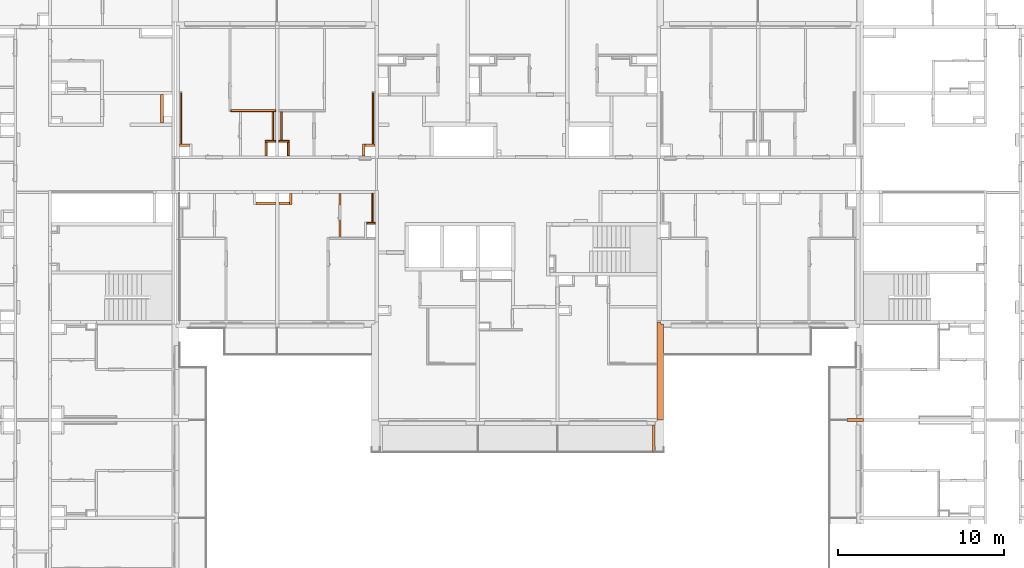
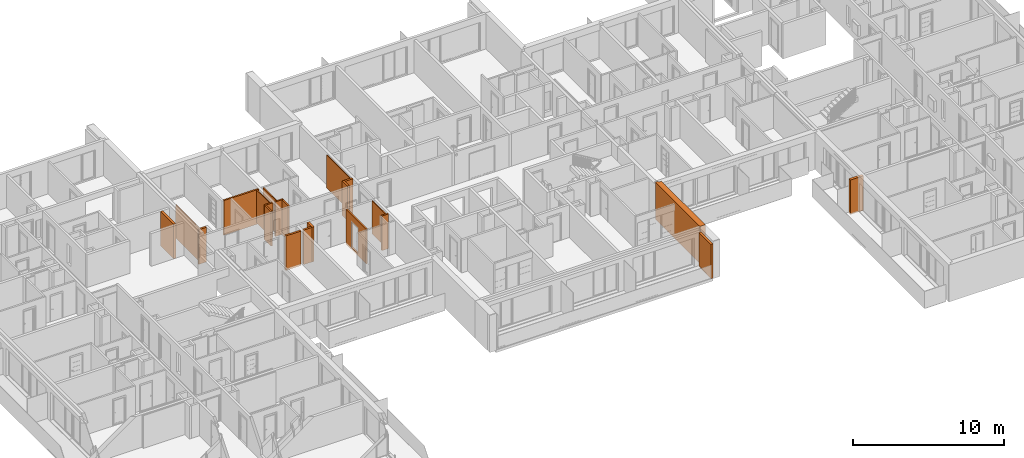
# One storey, part 57 of 66: 22 proxies, 1 opening.
"""IFC2X3 building model written with IfcOpenShell, lengths in millimetres."""

from ifc_helpers import new_model, entity, si_unit, converted_unit, derived_unit, money_unit, direction, frame, origin_with_axes, origin_2d_with_axis, place, context, subcontext, project, spatial, rectangle, extrude, faceted_brep, material, material_list, type_object, element, save


model = new_model("IFC2X3")

# Units and contexts
model_context = context("Model", 3, precision=0.01, world=origin_with_axes(), true_north=direction((0.34421633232, 0.938890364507)))
body_context = subcontext(model_context, "Body", "Model", "MODEL_VIEW")
ifc_project = project(units=[si_unit("LENGTHUNIT", "METRE", prefix="MILLI"), si_unit("AREAUNIT", "SQUARE_METRE"), si_unit("VOLUMEUNIT", "CUBIC_METRE"), converted_unit("PLANEANGLEUNIT", "DEGREE", entity("IfcPlaneAngleMeasure", 0.0174532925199), si_unit("PLANEANGLEUNIT", "RADIAN"), dimensions=[0, 0, 0, 0, 0, 0, 0]), si_unit("SOLIDANGLEUNIT", "STERADIAN"), money_unit("USD"), converted_unit("TIMEUNIT", "Year", entity("IfcTimeMeasure", 31556926.0), si_unit("TIMEUNIT", "SECOND"), dimensions=[0, 0, 1, 0, 0, 0, 0]), si_unit("MASSUNIT", "GRAM", prefix="KILO"), si_unit("THERMODYNAMICTEMPERATUREUNIT", "DEGREE_CELSIUS"), si_unit("LUMINOUSINTENSITYUNIT", "LUMEN"), si_unit("ENERGYUNIT", "JOULE", prefix="MEGA"), derived_unit("THERMALCONDUCTANCEUNIT", [(si_unit("POWERUNIT", "WATT"), 1), (si_unit("LENGTHUNIT", "METRE"), -1), (si_unit("THERMODYNAMICTEMPERATUREUNIT", "KELVIN"), -1)]), derived_unit("SPECIFICHEATCAPACITYUNIT", [(si_unit("ENERGYUNIT", "JOULE"), 1), (si_unit("MASSUNIT", "GRAM", prefix="KILO"), -1), (si_unit("THERMODYNAMICTEMPERATUREUNIT", "KELVIN"), -1)]), derived_unit("MASSDENSITYUNIT", [(si_unit("MASSUNIT", "GRAM", prefix="KILO"), 1), (si_unit("VOLUMEUNIT", "CUBIC_METRE"), -1)])], contexts=[model_context])

# Site, building, storey
site_placement = place(None, origin_with_axes())
site = spatial("IfcSite", under=ifc_project, at=site_placement, Name="USTRONIE MORSKIE", CompositionType="ELEMENT")
building_placement = place(site_placement, origin_with_axes())
building = spatial("IfcBuilding", under=site, at=building_placement, Name="Budynek", CompositionType="ELEMENT")
storey_placement = place(building_placement, frame((0.0, 0.0, 10000.0), z_axis=(0.0, 0.0, 1.0), x_axis=(1.0, 0.0, 0.0)))
storey = spatial("IfcBuildingStorey", under=building, at=storey_placement, Name="PIĘTRO 3", CompositionType="ELEMENT", Elevation=10000.0)

# Proxies
ifc_material_1 = material(Name="Bloczki silikatowe")
building_element_proxy_type_1 = type_object("IfcBuildingElementProxyType", Name="Bloczki silikatowe 120", PredefinedType="NOTDEFINED")
proxy_1_placement = place(storey_placement, frame((373917.920919, 737751.199937, -160.0), z_axis=(0.0, 0.0, 1.0), x_axis=(0.0, -1.0, 0.0)))
element("IfcBuildingElementProxy", 1, at=proxy_1_placement, inside=storey, type_object=building_element_proxy_type_1, material=ifc_material_1, Name="SW-04", context=body_context, shape_type="Brep", body=[
    faceted_brep([(820.00090117, 120.0, 0.0), (820.00090117, 0.0, 0.0), (0.0, 0.0, 0.0), (0.0, 120.0, 0.0), (820.00090117, 120.0, 2800.0), (820.00090117, 0.0, 2800.0), (0.0, 0.0, 2800.0), (0.0, 120.0, 2800.0)], [[[0, 1, 2, 3]], [[1, 0, 4, 5]], [[1, 5, 6, 2]], [[7, 3, 2, 6]], [[4, 0, 3, 7]], [[5, 4, 7, 6]]]),
])
proxy_2_placement = place(storey_placement, frame((373317.920919, 737751.199937, -160.0), z_axis=(0.0, 0.0, 1.0), x_axis=(-1.0, 0.0, 0.0)))
element("IfcBuildingElementProxy", 2, at=proxy_2_placement, inside=storey, type_object=building_element_proxy_type_1, material=ifc_material_1, Name="SW-04", context=body_context, shape_type="Brep", body=[
    faceted_brep([(720.0, 0.0, 2800.0), (100.0, 0.0, 2800.0), (100.0, -120.0, 2800.0), (720.0, -120.0, 2800.0), (720.0, 0.0, 0.0), (100.0, 0.0, 0.0), (100.0, -120.0, 0.0), (720.0, -120.0, 0.0)], [[[0, 1, 2, 3]], [[4, 5, 1, 0]], [[5, 6, 2, 1]], [[3, 2, 6, 7]], [[7, 4, 0, 3]], [[7, 6, 5, 4]]]),
])
proxy_3_placement = place(storey_placement, frame((373317.920919, 737751.199937, -160.0), z_axis=(0.0, 0.0, 1.0), x_axis=(1.0, 0.0, 0.0)))
element("IfcBuildingElementProxy", 3, at=proxy_3_placement, inside=storey, type_object=building_element_proxy_type_1, material=ifc_material_1, Name="SW-04", context=body_context, shape_type="Brep", body=[
    faceted_brep([(720.0, 120.0, 0.0), (720.0, 0.0, 0.0), (100.0, 0.0, 0.0), (100.0, 120.0, 0.0), (720.0, 120.0, 2800.0), (720.0, 0.0, 2800.0), (100.0, 0.0, 2800.0), (100.0, 120.0, 2800.0)], [[[0, 1, 2, 3]], [[1, 0, 4, 5]], [[1, 5, 6, 2]], [[7, 3, 2, 6]], [[4, 0, 3, 7]], [[5, 4, 7, 6]]]),
])
proxy_4_placement = place(storey_placement, frame((373317.920919, 739651.199937, -160.0), z_axis=(0.0, 0.0, 1.0), x_axis=(-1.0, 0.0, 0.0)))
element("IfcBuildingElementProxy", 4, at=proxy_4_placement, inside=storey, type_object=building_element_proxy_type_1, material=ifc_material_1, Name="SW-04", context=body_context, shape_type="Brep", body=[
    faceted_brep([(2790.00713284, -59.9999999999, 2800.0), (2790.00713284, 59.9999999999, 2800.0), (100.0, 59.9999999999, 2800.0), (100.0, -59.9999999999, 2800.0), (2790.00713284, -59.9999999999, 0.0), (2790.00713284, 59.9999999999, 0.0), (100.0, 59.9999999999, 0.0), (100.0, -59.9999999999, 0.0)], [[[0, 1, 2, 3]], [[1, 0, 4, 5]], [[1, 5, 6, 2]], [[7, 3, 2, 6]], [[4, 0, 3, 7]], [[5, 4, 7, 6]]]),
])
proxy_5_placement = place(storey_placement, frame((372717.920919, 737751.199937, -160.0), z_axis=(0.0, 0.0, 1.0), x_axis=(0.0, -1.0, 0.0)))
element("IfcBuildingElementProxy", 5, at=proxy_5_placement, inside=storey, type_object=building_element_proxy_type_1, material=ifc_material_1, Name="SW-04", context=body_context, shape_type="Brep", body=[
    faceted_brep([(820.00090117, -120.0, 2800.0), (820.00090117, 0.0, 2800.0), (0.0, 0.0, 2800.0), (0.0, -120.0, 2800.0), (820.00090117, -120.0, 0.0), (820.00090117, 0.0, 0.0), (0.0, 0.0, 0.0), (0.0, -120.0, 0.0)], [[[0, 1, 2, 3]], [[1, 0, 4, 5]], [[1, 5, 6, 2]], [[7, 3, 2, 6]], [[4, 0, 3, 7]], [[5, 4, 7, 6]]]),
])

# Proxy, opening
proxy_6_placement = place(storey_placement, frame((377097.901749, 731951.199132, -160.0), z_axis=(0.0, 0.0, 1.0), x_axis=(0.0, 1.0, 0.0)))
proxy_6 = element("IfcBuildingElementProxy", 6, at=proxy_6_placement, inside=storey, type_object=building_element_proxy_type_1, material=ifc_material_1, Name="SW-04", context=body_context, shape_type="Brep", body=[
    faceted_brep([(2720.00298174, 60.0, 0.0), (2720.00301893, -60.0, 0.0), (59.9999999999, -60.0, 0.0), (59.9999999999, 60.0, 0.0), (2720.00298174, 60.0, 2800.0), (2720.00301893, -60.0, 2800.0), (59.9999999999, -60.0, 2800.0), (59.9999999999, 60.0, 2800.0)], [[[0, 1, 2, 3]], [[1, 0, 4, 5]], [[1, 5, 6, 2]], [[7, 3, 2, 6]], [[4, 0, 3, 7]], [[5, 4, 7, 6]]]),
])
opening_placement = place(proxy_6_placement, frame((1559.96669926, 0.0, 160.0), z_axis=(0.0, 0.0, 1.0), x_axis=(1.0, 0.0, 0.0)))
element("IfcOpeningElement", 7, at=opening_placement, cuts=proxy_6, Name="Dw.4", context=body_context, shape_type="SweptSolid", body=[
    extrude(rectangle(XDim=920.0, YDim=2070.0, at=origin_2d_with_axis()), frame((0.0, -120.0, 1035.0), z_axis=(0.0, 1.0, 0.0), x_axis=(1.0, 0.0, 0.0)), (0.0, 0.0, 1.0), 360.0),
    extrude(rectangle(XDim=994.0, YDim=2177.0, at=origin_2d_with_axis()), frame((0.0, -60.0, 1088.5), z_axis=(0.0, 1.0, 0.0), x_axis=(1.0, 0.0, 0.0)), (0.0, 0.0, -1.0), 120.0),
    extrude(rectangle(XDim=994.0, YDim=2177.0, at=origin_2d_with_axis()), frame((0.0, 60.0, 1088.5), z_axis=(0.0, -1.0, 0.0), x_axis=(1.0, 0.0, 0.0)), (0.0, 0.0, -1.0), 120.0),
])

# Proxies
proxy_7_placement = place(storey_placement, frame((379317.920919, 732811.215201, -160.0), z_axis=(0.0, 0.0, 1.0), x_axis=(-0.999999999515, -3.11484020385e-05, 0.0)))
element("IfcBuildingElementProxy", 8, at=proxy_7_placement, inside=storey, type_object=building_element_proxy_type_1, material=ifc_material_1, Name="SW-04", context=body_context, shape_type="Brep", body=[
    faceted_brep([(599.979556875, 1.13686837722e-10, 0.0), (599.972081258, -120.0, 0.0), (99.9962622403, -120.0, 0.0), (100.000000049, 1.13686837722e-10, 0.0), (599.979556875, 1.13686837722e-10, 2800.0), (599.972081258, -120.0, 2800.0), (99.9962622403, -120.0, 2800.0), (100.000000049, 1.13686837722e-10, 2800.0)], [[[0, 1, 2, 3]], [[1, 0, 4, 5]], [[1, 5, 6, 2]], [[7, 3, 2, 6]], [[4, 0, 3, 7]], [[5, 4, 7, 6]]]),
])
ifc_material_2 = material(Name="Tynk zewnętrzny")
ifc_material_3 = material(Name="Wełna ELEW")
ifc_material_4 = material(Name="Beton konstrukcyjny B25")
ifc_material_list_1 = material_list([ifc_material_2, ifc_material_3, ifc_material_4])
building_element_proxy_type_2 = type_object("IfcBuildingElementProxyType", Name="20+20 410", PredefinedType="NOTDEFINED")
proxy_8_placement = place(storey_placement, frame((396317.920919, 726901.199036, -160.0), z_axis=(0.0, 0.0, 1.0), x_axis=(0.0, -1.0, 0.0)))
element("IfcBuildingElementProxy", 9, at=proxy_8_placement, inside=storey, type_object=building_element_proxy_type_2, material=ifc_material_list_1, Name="SZ-01", context=body_context, shape_type="Brep", body=[
    faceted_brep([(300.0, 300.271623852, 3000.0), (300.0, 300.271623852, 2800.0), (300.0, 310.0, 2800.0), (300.0, 310.0, 110.0), (300.0, 300.0, 110.0), (300.0, 300.0, 3000.0), (1900.00067759, 301.719629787, 3000.0), (1900.00067759, 301.719629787, 2800.0), (1900.00067759, 310.0, 2800.0), (1900.00067759, 310.0, 3000.0), (5900.0, 310.0, 3000.0), (5900.0, 310.0, 0.0), (1900.00067759, 310.0, 0.0), (1900.00067759, 310.0, 110.0), (1900.00067759, 301.448005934, 110.0), (300.0, 300.0, 0.0), (5900.0, 300.0, 0.0), (5900.0, 300.0, 3000.0), (1900.00067759, 301.448005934, 0.0)], [[[0, 1, 2, 3, 4, 5]], [[0, 6, 7, 1]], [[8, 2, 1, 7]], [[8, 9, 10, 11, 12, 13, 3, 2]], [[4, 3, 13, 14]], [[4, 15, 16, 17, 5]], [[6, 0, 5, 17, 10, 9]], [[6, 9, 8, 7]], [[16, 11, 10, 17]], [[18, 12, 11, 16, 15]], [[14, 13, 12, 18]], [[4, 14, 18, 15]]]),
    faceted_brep([(5900.0, 300.0, 0.0), (100.0, 300.0, 0.0), (100.0, 300.0, 3000.0), (5900.0, 300.0, 3000.0), (5900.0, 100.0, 0.0), (100.0, 100.0, 0.0), (100.0, 100.0, 3000.0), (5900.0, 100.0, 3000.0)], [[[0, 1, 2, 3]], [[4, 5, 1, 0]], [[5, 6, 2, 1]], [[3, 2, 6, 7]], [[4, 0, 3, 7]], [[7, 6, 5, 4]]]),
    faceted_brep([(0.0, 100.0, 3000.0), (0.0, -100.0, 3000.0), (5900.0, -100.0, 3000.0), (5900.0, 100.0, 3000.0), (0.0, 100.0, 0.0), (0.0, -100.0, 0.0), (5900.0, -100.0, 0.0), (5900.0, 100.0, 0.0)], [[[0, 1, 2, 3]], [[4, 5, 1, 0]], [[1, 5, 6, 2]], [[7, 3, 2, 6]], [[4, 0, 3, 7]], [[5, 4, 7, 6]]]),
])
building_element_proxy_type_3 = type_object("IfcBuildingElementProxyType", Name="Bloczki silikatowe 180", PredefinedType="NOTDEFINED")
proxy_9_placement = place(storey_placement, frame((366377.920919, 738801.199036, -160.0), z_axis=(0.0, 0.0, 1.0), x_axis=(0.0, 1.0, 0.0)))
element("IfcBuildingElementProxy", 10, at=proxy_9_placement, inside=storey, type_object=building_element_proxy_type_3, material=ifc_material_1, Name="SW-02", context=body_context, shape_type="Brep", body=[
    faceted_brep([(1819.98043997, -90.0, 2800.0), (1819.98043997, 90.0, 2800.0), (100.0, 90.0, 2800.0), (100.0, -90.0, 2800.0), (1819.98043997, -90.0, 0.0), (1819.98043997, 90.0, 0.0), (100.0, 90.0, 0.0), (100.0, -90.0, 0.0)], [[[0, 1, 2, 3]], [[1, 0, 4, 5]], [[1, 5, 6, 2]], [[7, 3, 2, 6]], [[4, 0, 3, 7]], [[5, 4, 7, 6]]]),
])
ifc_material_5 = material(Name="Płyta GK")
ifc_material_6 = material(Name="-Pustka powietrzna")
ifc_material_list_2 = material_list([ifc_material_5, ifc_material_5, ifc_material_6])
building_element_proxy_type_4 = type_object("IfcBuildingElementProxyType", Name="330-SD GK 2-warstwy 75", PredefinedType="NOTDEFINED")
proxy_10_placement = place(storey_placement, frame((379072.933272, 732811.206636, -160.0), z_axis=(0.0, 0.0, 1.0), x_axis=(0.0, 1.0, 0.0)))
element("IfcBuildingElementProxy", 11, at=proxy_10_placement, inside=storey, type_object=building_element_proxy_type_4, material=ifc_material_list_2, Name="Ściana-009", context=body_context, shape_type="Brep", body=[
    faceted_brep([(119.999766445, 37.5, 145.0), (1859.99609764, 37.5, 145.0), (1859.99609764, 37.5, 2800.0), (119.999766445, 37.5, 2800.0), (1859.99609377, 50.0, 145.0), (119.99937709, 50.0, 145.0), (1859.99609377, 50.0, 2800.0), (119.99937709, 50.0, 2800.0)], [[[0, 1, 2, 3]], [[4, 1, 0, 5]], [[1, 4, 6, 2]], [[2, 6, 7, 3]], [[5, 0, 3, 7]], [[4, 5, 7, 6]]]),
    faceted_brep([(120.0001558, 25.0, 145.0), (1859.99610152, 25.0, 145.0), (1859.99610152, 25.0, 2800.0), (120.0001558, 25.0, 2800.0), (1859.99609764, 37.5, 145.0), (119.999766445, 37.5, 145.0), (1859.99609764, 37.5, 2800.0), (119.999766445, 37.5, 2800.0)], [[[0, 1, 2, 3]], [[4, 1, 0, 5]], [[1, 4, 6, 2]], [[2, 6, 7, 3]], [[5, 0, 3, 7]], [[4, 5, 7, 6]]]),
    faceted_brep([(120.00171322, -25.0, 160.0), (1859.99611702, -25.0, 160.0), (1859.99611702, -25.0, 2800.0), (120.00171322, -25.0, 2800.0), (1859.99610152, 25.0, 160.0), (120.0001558, 25.0, 160.0), (1859.99610152, 25.0, 2800.0), (120.0001558, 25.0, 2800.0)], [[[0, 1, 2, 3]], [[4, 1, 0, 5]], [[1, 4, 6, 2]], [[2, 6, 7, 3]], [[5, 0, 3, 7]], [[4, 5, 7, 6]]]),
])
proxy_11_placement = place(storey_placement, frame((379087.943039, 737501.202288, -180.0), z_axis=(0.0, 0.0, 1.0), x_axis=(0.0, 1.0, 0.0)))
element("IfcBuildingElementProxy", 12, at=proxy_11_placement, inside=storey, type_object=building_element_proxy_type_4, material=ifc_material_list_2, Name="Ściana-009", context=body_context, shape_type="Brep", body=[
    faceted_brep([(150.0, 12.5, 165.0), (3282.5, 12.5, 165.0), (3282.5, 12.5, 2820.0), (150.0, 12.5, 2820.0), (3282.5, 25.0, 165.0), (150.0, 25.0, 165.0), (3282.5, 25.0, 2820.0), (150.0, 25.0, 2820.0)], [[[0, 1, 2, 3]], [[4, 1, 0, 5]], [[1, 4, 6, 2]], [[6, 7, 3, 2]], [[5, 0, 3, 7]], [[4, 5, 7, 6]]]),
    faceted_brep([(150.0, 0.0, 165.0), (3270.0, 0.0, 165.0), (3270.0, 0.0, 2820.0), (150.0, 0.0, 2820.0), (3270.0, 12.5, 165.0), (150.0, 12.5, 165.0), (3270.0, 12.5, 2820.0), (150.0, 12.5, 2820.0)], [[[0, 1, 2, 3]], [[4, 1, 0, 5]], [[1, 4, 6, 2]], [[6, 7, 3, 2]], [[5, 0, 3, 7]], [[4, 5, 7, 6]]]),
    faceted_brep([(150.0, -50.0, 180.0), (3220.0, -50.0, 180.0), (3220.0, -50.0, 2820.0), (150.0, -50.0, 2820.0), (3220.0, 0.0, 180.0), (150.0, 0.0, 180.0), (3220.0, 0.0, 2820.0), (150.0, 0.0, 2820.0)], [[[0, 1, 2, 3]], [[4, 1, 0, 5]], [[1, 4, 6, 2]], [[6, 7, 3, 2]], [[5, 0, 3, 7]], [[4, 5, 7, 6]]]),
])
ifc_material_list_3 = material_list([ifc_material_6, ifc_material_5, ifc_material_5])
proxy_12_placement = place(storey_placement, frame((367547.898799, 737501.202288, -180.0), z_axis=(0.0, 0.0, 1.0), x_axis=(0.0, 1.0, 0.0)))
element("IfcBuildingElementProxy", 13, at=proxy_12_placement, inside=storey, type_object=building_element_proxy_type_4, material=ifc_material_list_3, Name="Ściana-009", context=body_context, shape_type="Brep", body=[
    faceted_brep([(150.0, 0.0, 180.0), (3220.00000001, 0.0, 180.0), (3220.00000001, 0.0, 2820.0), (150.0, 0.0, 2820.0), (3220.00000001, 50.0, 180.0), (150.0, 50.0, 180.0), (3220.00000001, 50.0, 2820.0), (150.0, 50.0, 2820.0)], [[[0, 1, 2, 3]], [[4, 1, 0, 5]], [[1, 4, 6, 2]], [[6, 7, 3, 2]], [[5, 0, 3, 7]], [[4, 5, 7, 6]]]),
    faceted_brep([(150.0, -12.5, 165.0), (3270.00000001, -12.5, 165.0), (3270.00000001, -12.5, 2820.0), (150.0, -12.5, 2820.0), (3270.00000001, 0.0, 165.0), (150.0, 0.0, 165.0), (3270.00000001, 0.0, 2820.0), (150.0, 0.0, 2820.0)], [[[0, 1, 2, 3]], [[4, 1, 0, 5]], [[1, 4, 6, 2]], [[6, 7, 3, 2]], [[5, 0, 3, 7]], [[4, 5, 7, 6]]]),
    faceted_brep([(150.0, -25.0, 165.0), (3282.50000001, -25.0, 165.0), (3282.50000001, -25.0, 2820.0), (150.0, -25.0, 2820.0), (3282.50000001, -12.5, 165.0), (150.0, -12.5, 165.0), (3282.50000001, -12.5, 2820.0), (150.0, -12.5, 2820.0)], [[[0, 1, 2, 3]], [[4, 1, 0, 5]], [[1, 4, 6, 2]], [[6, 7, 3, 2]], [[5, 0, 3, 7]], [[4, 5, 7, 6]]]),
])
proxy_13_placement = place(storey_placement, frame((373072.933272, 739651.199937, -180.0), z_axis=(0.0, 0.0, 1.0), x_axis=(0.0, -1.0, 0.0)))
element("IfcBuildingElementProxy", 14, at=proxy_13_placement, inside=storey, type_object=building_element_proxy_type_4, material=ifc_material_list_3, Name="Ściana-009", context=body_context, shape_type="Brep", body=[
    faceted_brep([(1780.0, 25.0, 180.0), (59.9999999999, 25.0, 180.0), (59.9999999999, 25.0, 2820.0), (1780.0, 25.0, 2820.0), (59.9999999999, -25.0, 180.0), (1780.0, -25.0, 180.0), (59.9999999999, -25.0, 2820.0), (1780.0, -25.0, 2820.0)], [[[0, 1, 2, 3]], [[4, 1, 0, 5]], [[1, 4, 6, 2]], [[6, 7, 3, 2]], [[5, 0, 3, 7]], [[4, 5, 7, 6]]]),
    faceted_brep([(1780.0, -25.0, 165.0), (59.9999999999, -25.0, 165.0), (59.9999999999, -25.0, 2820.0), (1780.0, -25.0, 2820.0), (59.9999999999, -37.5, 165.0), (1780.0, -37.5, 165.0), (59.9999999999, -37.5, 2820.0), (1780.0, -37.5, 2820.0)], [[[0, 1, 2, 3]], [[4, 1, 0, 5]], [[1, 4, 6, 2]], [[6, 7, 3, 2]], [[5, 0, 3, 7]], [[4, 5, 7, 6]]]),
    faceted_brep([(1780.0, -37.5, 165.0), (59.9999999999, -37.5, 165.0), (59.9999999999, -37.5, 2820.0), (1780.0, -37.5, 2820.0), (59.9999999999, -50.0, 165.0), (1780.0, -50.0, 165.0), (59.9999999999, -50.0, 2820.0), (1780.0, -50.0, 2820.0)], [[[0, 1, 2, 3]], [[4, 1, 0, 5]], [[1, 4, 6, 2]], [[6, 7, 3, 2]], [[5, 0, 3, 7]], [[4, 5, 7, 6]]]),
])
proxy_14_placement = place(storey_placement, frame((373562.908566, 739651.199937, -180.0), z_axis=(0.0, 0.0, 1.0), x_axis=(0.0, -1.0, 0.0)))
element("IfcBuildingElementProxy", 15, at=proxy_14_placement, inside=storey, type_object=building_element_proxy_type_4, material=ifc_material_list_2, Name="Ściana-009", context=body_context, shape_type="Brep", body=[
    faceted_brep([(1780.0, 50.0, 165.0), (59.9999999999, 50.0, 165.0), (59.9999999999, 50.0, 2820.0), (1780.0, 50.0, 2820.0), (59.9999999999, 37.5, 165.0), (1780.0, 37.5, 165.0), (59.9999999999, 37.5, 2820.0), (1780.0, 37.5, 2820.0)], [[[0, 1, 2, 3]], [[4, 1, 0, 5]], [[1, 4, 6, 2]], [[6, 7, 3, 2]], [[5, 0, 3, 7]], [[4, 5, 7, 6]]]),
    faceted_brep([(1780.0, 37.5, 165.0), (59.9999999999, 37.5, 165.0), (59.9999999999, 37.5, 2820.0), (1780.0, 37.5, 2820.0), (59.9999999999, 25.0, 165.0), (1780.0, 25.0, 165.0), (59.9999999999, 25.0, 2820.0), (1780.0, 25.0, 2820.0)], [[[0, 1, 2, 3]], [[4, 1, 0, 5]], [[1, 4, 6, 2]], [[6, 7, 3, 2]], [[5, 0, 3, 7]], [[4, 5, 7, 6]]]),
    faceted_brep([(1780.0, 25.0, 180.0), (59.9999999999, 25.0, 180.0), (59.9999999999, 25.0, 2820.0), (1780.0, 25.0, 2820.0), (59.9999999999, -25.0, 180.0), (1780.0, -25.0, 180.0), (59.9999999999, -25.0, 2820.0), (1780.0, -25.0, 2820.0)], [[[0, 1, 2, 3]], [[4, 1, 0, 5]], [[1, 4, 6, 2]], [[6, 7, 3, 2]], [[5, 0, 3, 7]], [[4, 5, 7, 6]]]),
])
building_element_proxy_type_5 = type_object("IfcBuildingElementProxyType", Name="Bloczki silikatowe 150", PredefinedType="NOTDEFINED")
proxy_15_placement = place(storey_placement, frame((372047.920919, 734151.201884, -160.0), z_axis=(0.0, 0.0, 1.0), x_axis=(1.0, 0.0, 0.0)))
element("IfcBuildingElementProxy", 16, at=proxy_15_placement, inside=storey, type_object=building_element_proxy_type_5, material=ifc_material_1, Name="SW-03", context=body_context, shape_type="Brep", body=[
    faceted_brep([(0.0, -150.0, 2800.0), (1170.0, -150.0, 2800.0), (1170.0, 0.0, 2800.0), (0.0, 0.0, 2800.0), (0.0, -150.0, 0.0), (1170.0, -150.0, 0.0), (1170.0, 0.0, 0.0), (0.0, 0.0, 0.0)], [[[0, 1, 2, 3]], [[4, 5, 1, 0]], [[5, 6, 2, 1]], [[3, 2, 6, 7]], [[3, 7, 4, 0]], [[7, 6, 5, 4]]]),
])
proxy_16_placement = place(storey_placement, frame((378617.937739, 736851.19885, -160.0), z_axis=(0.0, 0.0, 1.0), x_axis=(0.0, 1.0, 0.0)))
element("IfcBuildingElementProxy", 17, at=proxy_16_placement, inside=storey, type_object=building_element_proxy_type_5, material=ifc_material_1, Name="SW-03", context=body_context, shape_type="Brep", body=[
    faceted_brep([(800.003437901, 0.0, 2800.0), (800.003437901, 150.0, 2800.0), (80.0001859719, 150.0, 2800.0), (80.0001859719, 0.0, 2800.0), (800.003437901, 0.0, 0.0), (800.003437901, 150.0, 0.0), (80.0001859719, 150.0, 0.0), (80.0001859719, 0.0, 0.0)], [[[0, 1, 2, 3]], [[1, 0, 4, 5]], [[1, 5, 6, 2]], [[7, 3, 2, 6]], [[4, 0, 3, 7]], [[5, 4, 7, 6]]]),
])
proxy_17_placement = place(storey_placement, frame((374067.920919, 734751.201178, -160.0), z_axis=(0.0, 0.0, 1.0), x_axis=(0.0, -1.0, 0.0)))
element("IfcBuildingElementProxy", 18, at=proxy_17_placement, inside=storey, type_object=building_element_proxy_type_5, material=ifc_material_1, Name="SW-03", context=body_context, shape_type="Brep", body=[
    faceted_brep([(749.999293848, 0.0, 2800.0), (749.999293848, 150.0, 2800.0), (79.9999380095, 150.0, 2800.0), (79.9999845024, 0.0, 2800.0), (749.999293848, 0.0, 0.0), (749.999293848, 150.0, 0.0), (79.9999380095, 150.0, 0.0), (79.9999845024, 0.0, 0.0)], [[[0, 1, 2, 3]], [[1, 0, 4, 5]], [[1, 5, 6, 2]], [[7, 3, 2, 6]], [[4, 0, 3, 7]], [[5, 4, 7, 6]]]),
])
proxy_18_placement = place(storey_placement, frame((378617.937739, 737501.202288, -160.0), z_axis=(0.0, 0.0, 1.0), x_axis=(1.0, 0.0, 0.0)))
element("IfcBuildingElementProxy", 19, at=proxy_18_placement, inside=storey, type_object=building_element_proxy_type_5, material=ifc_material_1, Name="SW-03", context=body_context, shape_type="Brep", body=[
    faceted_brep([(599.983179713, 0.0, 2800.0), (599.983179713, 150.0, 2800.0), (0.0, 150.0, 2800.0), (0.0, 0.0, 2800.0), (599.983179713, 0.0, 0.0), (599.983179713, 150.0, 0.0), (0.0, 150.0, 0.0), (0.0, 0.0, 0.0)], [[[0, 1, 2, 3]], [[1, 0, 4, 5]], [[1, 5, 6, 2]], [[7, 3, 2, 6]], [[4, 0, 3, 7]], [[5, 4, 7, 6]]]),
])
proxy_19_placement = place(storey_placement, frame((374067.920919, 734151.201884, -160.0), z_axis=(0.0, 0.0, 1.0), x_axis=(-1.0, 0.0, 0.0)))
element("IfcBuildingElementProxy", 20, at=proxy_19_placement, inside=storey, type_object=building_element_proxy_type_5, material=ifc_material_1, Name="SW-03", context=body_context, shape_type="Brep", body=[
    faceted_brep([(650.0, 0.0, 2800.0), (650.0, 150.0, 2800.0), (0.0, 150.0, 2800.0), (0.0, 0.0, 2800.0), (650.0, 0.0, 0.0), (650.0, 150.0, 0.0), (0.0, 150.0, 0.0), (0.0, 0.0, 0.0)], [[[0, 1, 2, 3]], [[1, 0, 4, 5]], [[1, 5, 6, 2]], [[7, 3, 2, 6]], [[4, 0, 3, 7]], [[5, 4, 7, 6]]]),
])
proxy_20_placement = place(storey_placement, frame((368017.903884, 737501.202288, -160.0), z_axis=(0.0, 0.0, 1.0), x_axis=(-1.0, 0.0, 0.0)))
element("IfcBuildingElementProxy", 21, at=proxy_20_placement, inside=storey, type_object=building_element_proxy_type_5, material=ifc_material_1, Name="SW-03", context=body_context, shape_type="Brep", body=[
    faceted_brep([(599.982965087, 0.0, 0.0), (599.982965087, -150.0, 0.0), (0.00467226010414, -150.0, 0.0), (0.0, 0.0, 0.0), (599.982965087, 0.0, 2800.0), (599.982965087, -150.0, 2800.0), (0.00467226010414, -150.0, 2800.0), (0.0, 0.0, 2800.0)], [[[0, 1, 2, 3]], [[1, 0, 4, 5]], [[1, 5, 6, 2]], [[7, 3, 2, 6]], [[4, 0, 3, 7]], [[5, 4, 7, 6]]]),
])
building_element_proxy_type_6 = type_object("IfcBuildingElementProxyType", Name="Beton konstrukcyjny B25 200", PredefinedType="NOTDEFINED")
proxy_21_placement = place(storey_placement, frame((407667.88964, 721001.199036, -160.0), z_axis=(0.0, 0.0, 1.0), x_axis=(1.0, 0.0, 0.0)))
element("IfcBuildingElementProxy", 22, at=proxy_21_placement, inside=storey, type_object=building_element_proxy_type_6, material=ifc_material_4, Name="SW-01", context=body_context, shape_type="Brep", body=[
    faceted_brep([(0.0, 100.0, 0.0), (1000.01949287, 100.0, 0.0), (1000.01907933, -100.0, 0.0), (0.0, -100.0, 0.0), (0.0, 100.0, 2800.0), (1000.01949287, 100.0, 2800.0), (1000.01907933, -100.0, 2800.0), (0.0, -100.0, 2800.0)], [[[0, 1, 2, 3]], [[4, 5, 1, 0]], [[6, 2, 1, 5]], [[3, 2, 6, 7]], [[7, 4, 0, 3]], [[7, 6, 5, 4]]]),
])
ifc_material_7 = material(Name="Laminat")
building_element_proxy_type_7 = type_object("IfcBuildingElementProxyType", Name="Laminat 150", PredefinedType="NOTDEFINED")
proxy_22_placement = place(storey_placement, frame((396032.920919, 720691.199036, -160.0), z_axis=(0.0, 0.0, 1.0), x_axis=(0.0, -1.0, 0.0)))
element("IfcBuildingElementProxy", 23, at=proxy_22_placement, inside=storey, type_object=building_element_proxy_type_7, material=ifc_material_7, Name="SW-03", context=body_context, shape_type="Brep", body=[
    faceted_brep([(1572.49971536, 74.9999999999, 109.999995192), (1572.49971536, -75.0, 109.999995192), (4.99980812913, -75.0, 109.999995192), (4.99980812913, 74.9999999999, 109.999995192), (1572.49971536, 74.9999999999, 14.9999951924), (1572.49971536, -75.0, 14.9999951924), (0.0, -75.0, 2789.99999183), (0.0, -75.0, 9.99999623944), (1600.03040031, -75.0, 10.0000009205), (1600.03040031, -75.0, 2789.99999183), (1547.49980813, -75.0, 14.9999951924), (1547.49980813, -75.0, 84.9999951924), (4.99980812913, -75.0, 84.9999951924), (4.99980812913, 74.9999999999, 84.9999951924), (1600.03040031, 74.9999999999, 2789.99999183), (1600.03040031, 74.9999999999, 10.0000009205), (0.0, 74.9999999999, 9.99999623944), (-0.000681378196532, 74.9999999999, 2789.99999183), (1547.49980813, 74.9999999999, 84.9999951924), (1547.49980813, 74.9999999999, 14.9999951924)], [[[0, 1, 2, 3]], [[4, 5, 1, 0]], [[6, 7, 8, 9], [2, 1, 5, 10, 11, 12]], [[3, 2, 12, 13]], [[14, 15, 16, 17], [18, 19, 4, 0, 3, 13]], [[19, 10, 5, 4]], [[16, 7, 6, 17]], [[15, 8, 7, 16]], [[14, 9, 8, 15]], [[17, 6, 9, 14]], [[18, 11, 10, 19]], [[13, 12, 11, 18]]]),
])

save(model, "model.ifc")
